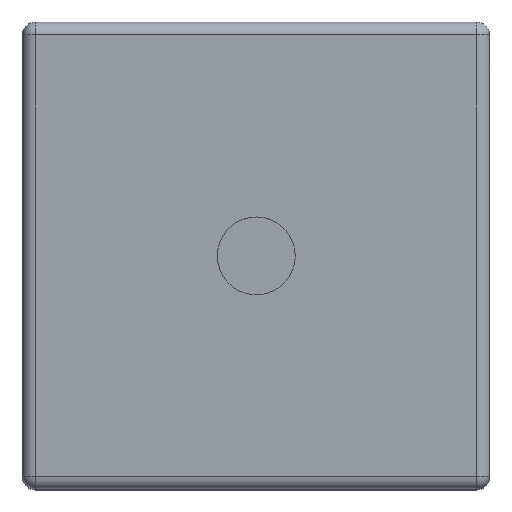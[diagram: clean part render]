
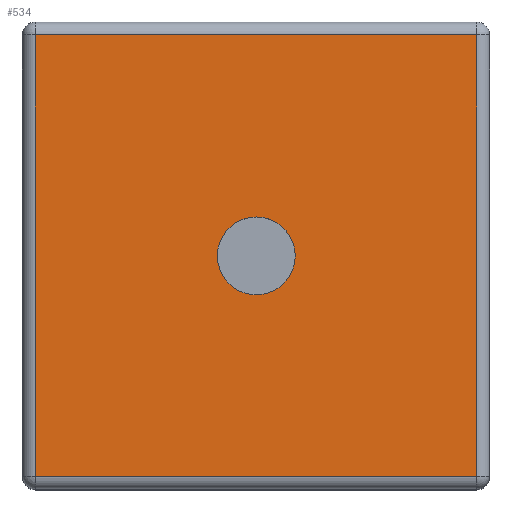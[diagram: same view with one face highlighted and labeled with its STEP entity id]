
A CAD part, top view. The second image highlights one B-rep face of the part: STEP entity #534.
In plain terms, the highlighted planar face has unit normal (0, 0, 1).
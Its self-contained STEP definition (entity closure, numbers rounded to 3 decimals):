
#172 = VERTEX_POINT('',#173);
#173 = CARTESIAN_POINT('',(0.5,0.5,18.));
#180 = EDGE_CURVE('',#172,#181,#183,.T.);
#181 = VERTEX_POINT('',#182);
#182 = CARTESIAN_POINT('',(0.5,17.5,18.));
#183 = LINE('',#184,#185);
#184 = CARTESIAN_POINT('',(0.5,0.,18.));
#185 = VECTOR('',#186,1.);
#186 = DIRECTION('',(0.,1.,0.));
#534 = ADVANCED_FACE('',(#535,#560),#571,.T.);
#535 = FACE_BOUND('',#536,.T.);
#536 = EDGE_LOOP('',(#537,#538,#546,#554));
#537 = ORIENTED_EDGE('',*,*,#180,.F.);
#538 = ORIENTED_EDGE('',*,*,#539,.T.);
#539 = EDGE_CURVE('',#172,#540,#542,.T.);
#540 = VERTEX_POINT('',#541);
#541 = CARTESIAN_POINT('',(17.5,0.5,18.));
#542 = LINE('',#543,#544);
#543 = CARTESIAN_POINT('',(0.,0.5,18.));
#544 = VECTOR('',#545,1.);
#545 = DIRECTION('',(1.,0.,0.));
#546 = ORIENTED_EDGE('',*,*,#547,.T.);
#547 = EDGE_CURVE('',#540,#548,#550,.T.);
#548 = VERTEX_POINT('',#549);
#549 = CARTESIAN_POINT('',(17.5,17.5,18.));
#550 = LINE('',#551,#552);
#551 = CARTESIAN_POINT('',(17.5,0.,18.));
#552 = VECTOR('',#553,1.);
#553 = DIRECTION('',(0.,1.,0.));
#554 = ORIENTED_EDGE('',*,*,#555,.F.);
#555 = EDGE_CURVE('',#181,#548,#556,.T.);
#556 = LINE('',#557,#558);
#557 = CARTESIAN_POINT('',(0.,17.5,18.));
#558 = VECTOR('',#559,1.);
#559 = DIRECTION('',(1.,0.,0.));
#560 = FACE_BOUND('',#561,.T.);
#561 = EDGE_LOOP('',(#562));
#562 = ORIENTED_EDGE('',*,*,#563,.F.);
#563 = EDGE_CURVE('',#564,#564,#566,.T.);
#564 = VERTEX_POINT('',#565);
#565 = CARTESIAN_POINT('',(10.51,8.99,18.));
#566 = CIRCLE('',#567,1.5);
#567 = AXIS2_PLACEMENT_3D('',#568,#569,#570);
#568 = CARTESIAN_POINT('',(9.01,8.99,18.));
#569 = DIRECTION('',(0.,0.,1.));
#570 = DIRECTION('',(1.,0.,0.));
#571 = PLANE('',#572);
#572 = AXIS2_PLACEMENT_3D('',#573,#574,#575);
#573 = CARTESIAN_POINT('',(0.,0.,18.));
#574 = DIRECTION('',(0.,0.,1.));
#575 = DIRECTION('',(1.,0.,0.));
